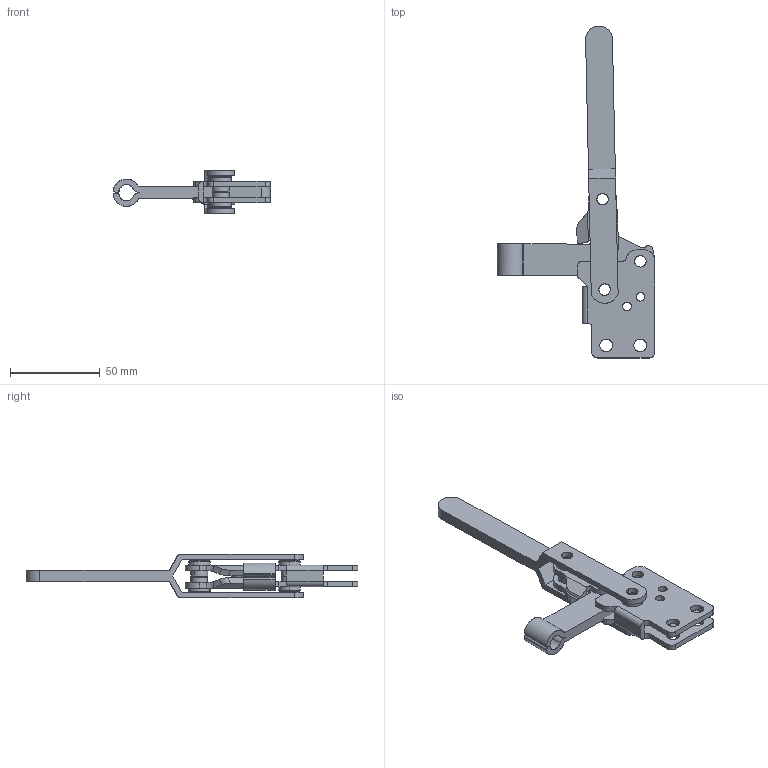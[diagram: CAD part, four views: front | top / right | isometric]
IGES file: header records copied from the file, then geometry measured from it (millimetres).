
Start section: Comment
Global section: file name: 12501c.igs; native system:  By Spatial Corp.; preprocessor: XPlus PS/IGES 3.0; author: Author; organization: Title; date: 20050216.172111; units: inch
Bounding box: 87.92 x 185.46 x 24.4 mm (x, y, z)
Surface area: 30502.6 mm2 (no closed solid volume)
Topology: 0 solids, 0 shells, 237 faces, 1226 edges, 1226 vertices
Faces by surface type: revolution 162, extrusion 75
